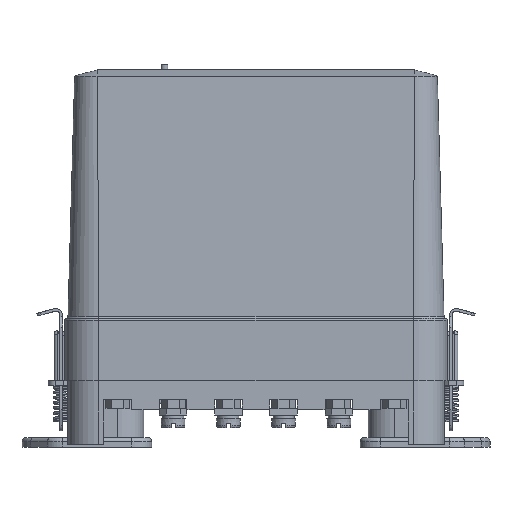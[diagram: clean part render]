
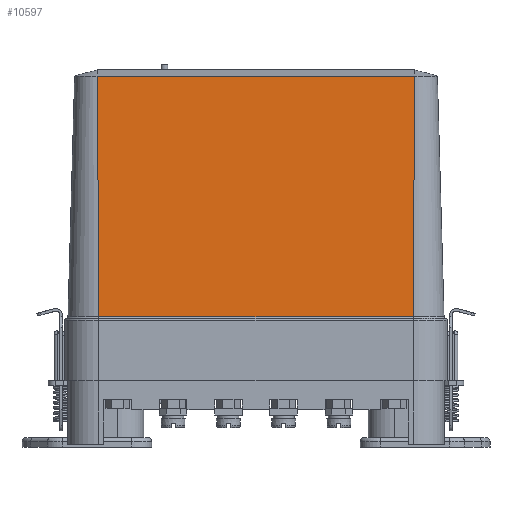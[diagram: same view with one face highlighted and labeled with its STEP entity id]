
A CAD part, left-side view. The second image highlights one B-rep face of the part: STEP entity #10597.
In plain terms, the highlighted planar face has unit normal (-1, 0, 0.028).
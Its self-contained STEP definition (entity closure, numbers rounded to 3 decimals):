
#10597=ADVANCED_FACE('',(#29421),#29423,.T.);
#29421=FACE_BOUND('',#29422,.T.);
#29422=EDGE_LOOP('',(#36268,#36269,#36270,#36271));
#29423=PLANE('',#29424);
#29424=AXIS2_PLACEMENT_3D('',#29425,#29426,#29427);
#29425=CARTESIAN_POINT('',(-30.,-46.,108.5));
#29426=DIRECTION('',(-1.,0.,0.028));
#29427=DIRECTION('',(0.,1.,0.));
#36268=ORIENTED_EDGE('',*,*,#39534,.T.);
#36269=ORIENTED_EDGE('',*,*,#39585,.F.);
#36270=ORIENTED_EDGE('',*,*,#39586,.T.);
#36271=ORIENTED_EDGE('',*,*,#39587,.T.);
#39534=EDGE_CURVE('',#44748,#44745,#44749,.T.);
#39585=EDGE_CURVE('',#44827,#44745,#44829,.T.);
#39586=EDGE_CURVE('',#44827,#44830,#44831,.T.);
#39587=EDGE_CURVE('',#44830,#44748,#44832,.T.);
#44745=VERTEX_POINT('',#59263);
#44748=VERTEX_POINT('',#59285);
#44749=LINE('',#59286,#59287);
#44827=VERTEX_POINT('',#59594);
#44829=LINE('',#59613,#59614);
#44830=VERTEX_POINT('',#59616);
#44831=LINE('',#59617,#59618);
#44832=LINE('',#59620,#59621);
#59263=CARTESIAN_POINT('',(-31.986,-45.503,36.986));
#59285=CARTESIAN_POINT('',(-31.986,45.503,36.986));
#59286=CARTESIAN_POINT('',(-31.986,45.503,36.986));
#59287=VECTOR('',#59288,1.);
#59288=DIRECTION('',(0.,-1.,0.));
#59594=CARTESIAN_POINT('',(-30.049,-45.988,106.751));
#59613=CARTESIAN_POINT('',(-30.049,-45.988,106.751));
#59614=VECTOR('',#59615,1.);
#59615=DIRECTION('',(-0.028,0.007,-1.));
#59616=CARTESIAN_POINT('',(-30.049,45.988,106.751));
#59617=CARTESIAN_POINT('',(-30.049,-45.988,106.751));
#59618=VECTOR('',#59619,1.);
#59619=DIRECTION('',(0.,1.,0.));
#59620=CARTESIAN_POINT('',(-30.049,45.988,106.751));
#59621=VECTOR('',#59622,1.);
#59622=DIRECTION('',(-0.028,-0.007,-1.));
